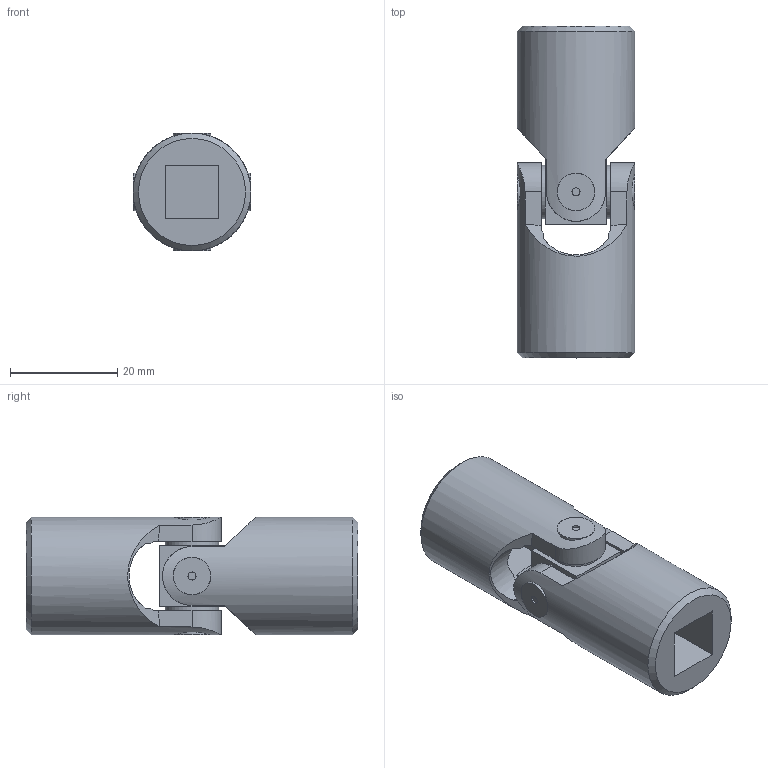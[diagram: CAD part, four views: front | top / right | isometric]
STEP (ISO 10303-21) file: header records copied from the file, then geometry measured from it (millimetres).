
FILE_DESCRIPTION(/* description */ ('EXTENSIBLE TRANSIMISSIONS Series G DIN 808 -2-'),/* implementation_level */ '2;1');
FILE_NAME(/* name */ '\\SRV2016\Societa\Stefano\Disegni 3D\Dis. Clienti\0000Catalogo 3D\01Singoli G-GB\Ø22_04GB-2Q_SGBS122Q.stp',/* time_stamp */ '2021-11-10T15:24:06+01:00',/* author */ ('acquisti'),/* organization */ ('MARIOFERRI'),/* preprocessor_version */ 'ST-DEVELOPER v15.6',/* originating_system */ 'Autodesk Inventor 2015',/* authorisation */ '');
FILE_SCHEMA (('AUTOMOTIVE_DESIGN { 1 0 10303 214 3 1 1 }'));
Length unit declared in the file: millimetre
Products named in the file (3): 03G SFE; 04GB MOQ; Assieme5
Assembly tree (3 placements, depth 2):
  Assieme5
    03G SFE
    04GB MOQ  x2
Bounding box: 22 x 62 x 22 mm (x, y, z)
Volume: 15935.4 mm3; surface area: 8076.1 mm2
Topology: 3 solids, 3 shells, 94 faces, 230 edges, 152 vertices
Faces by surface type: plane 44, cylinder 30, cone 18, torus 2
Full cylindrical faces by diameter (mm): 1.5 x4, 10 x4, 22 x2
Entity records: 1775 total; most frequent: CARTESIAN_POINT 549, DIRECTION 236, ORIENTED_EDGE 234, EDGE_CURVE 117, AXIS2_PLACEMENT_3D 98, VERTEX_POINT 83, EDGE_LOOP 72, FACE_OUTER_BOUND 54
